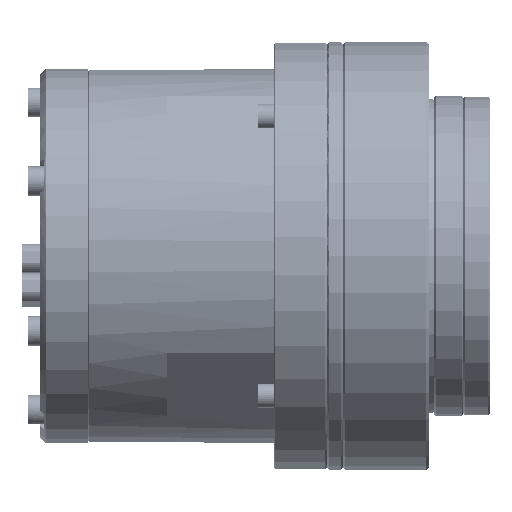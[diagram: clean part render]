
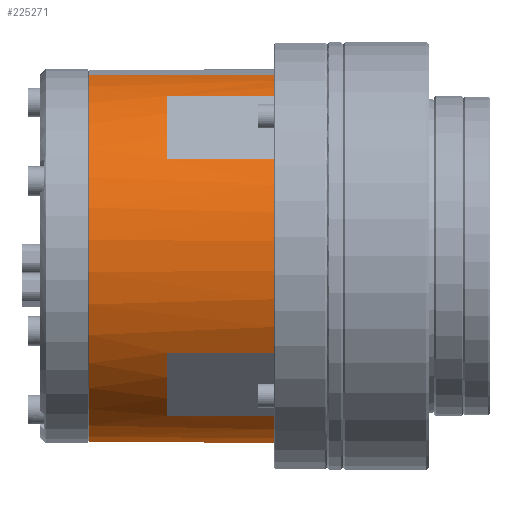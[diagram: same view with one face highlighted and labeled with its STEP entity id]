
A CAD part, front view. The second image highlights one B-rep face of the part: STEP entity #225271.
In plain terms, the highlighted cylindrical face has radius 35 mm (diameter 70 mm), a partial arc.
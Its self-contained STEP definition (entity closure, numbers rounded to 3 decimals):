
#745 = LINE ( 'NONE', #92793, #160733 ) ;
#1919 = CARTESIAN_POINT ( 'NONE',  ( -49., -29.915, -18.168 ) ) ;
#4684 = DIRECTION ( 'NONE',  ( 1., 0., 0. ) ) ;
#7961 = EDGE_CURVE ( 'NONE', #388718, #17046, #163701, .T. ) ;
#8034 = AXIS2_PLACEMENT_3D ( 'NONE', #76215, #78187, #198306 ) ;
#9413 = EDGE_CURVE ( 'NONE', #19463, #389064, #389815, .T. ) ;
#10441 = VERTEX_POINT ( 'NONE', #216048 ) ;
#12036 = ORIENTED_EDGE ( 'NONE', *, *, #255755, .F. ) ;
#13401 = LINE ( 'NONE', #107424, #105931 ) ;
#17046 = VERTEX_POINT ( 'NONE', #160191 ) ;
#19152 = CARTESIAN_POINT ( 'NONE',  ( -63.5, 0., 0. ) ) ;
#19463 = VERTEX_POINT ( 'NONE', #164385 ) ;
#20334 = CIRCLE ( 'NONE', #391242, 35. ) ;
#23893 = LINE ( 'NONE', #206046, #26163 ) ;
#26163 = VECTOR ( 'NONE', #61820, 1000. ) ;
#34960 = CIRCLE ( 'NONE', #258685, 35. ) ;
#38066 = EDGE_LOOP ( 'NONE', ( #87904, #295258, #357998, #218449, #228790, #245941, #252661, #12036, #369281, #177261, #128901, #138926 ) ) ;
#42257 = DIRECTION ( 'NONE',  ( -1., 0., 0. ) ) ;
#44217 = CYLINDRICAL_SURFACE ( 'NONE', #8034, 35. ) ;
#47086 = CARTESIAN_POINT ( 'NONE',  ( -19., -18.168, 29.915 ) ) ;
#50597 = CARTESIAN_POINT ( 'NONE',  ( -29., 0., 0. ) ) ;
#54548 = CARTESIAN_POINT ( 'NONE',  ( -49., 0., 0. ) ) ;
#59107 = AXIS2_PLACEMENT_3D ( 'NONE', #256673, #378738, #180397 ) ;
#61820 = DIRECTION ( 'NONE',  ( -1., 0., 0. ) ) ;
#70313 = CARTESIAN_POINT ( 'NONE',  ( -49., 0., 0. ) ) ;
#76215 = CARTESIAN_POINT ( 'NONE',  ( -19., 0., 0. ) ) ;
#78187 = DIRECTION ( 'NONE',  ( -1., 0., 0. ) ) ;
#84520 = CIRCLE ( 'NONE', #59107, 35. ) ;
#86559 = DIRECTION ( 'NONE',  ( -1., 0., 0. ) ) ;
#87904 = ORIENTED_EDGE ( 'NONE', *, *, #192999, .F. ) ;
#92793 = CARTESIAN_POINT ( 'NONE',  ( -19., -18.168, -29.915 ) ) ;
#96084 = DIRECTION ( 'NONE',  ( 0., -0.259, 0.966 ) ) ;
#97016 = EDGE_CURVE ( 'NONE', #234664, #217588, #84520, .T. ) ;
#105931 = VECTOR ( 'NONE', #199468, 1000. ) ;
#106695 = AXIS2_PLACEMENT_3D ( 'NONE', #194055, #280243, #96084 ) ;
#107424 = CARTESIAN_POINT ( 'NONE',  ( -19., -29.915, 18.168 ) ) ;
#110674 = DIRECTION ( 'NONE',  ( 1., 0., 0. ) ) ;
#113084 = LINE ( 'NONE', #47086, #215386 ) ;
#115460 = EDGE_CURVE ( 'NONE', #259163, #223110, #253619, .T. ) ;
#116608 = VECTOR ( 'NONE', #357865, 1000. ) ;
#128901 = ORIENTED_EDGE ( 'NONE', *, *, #9413, .T. ) ;
#136896 = CARTESIAN_POINT ( 'NONE',  ( -49., -18.168, 29.915 ) ) ;
#138926 = ORIENTED_EDGE ( 'NONE', *, *, #290094, .F. ) ;
#148144 = CARTESIAN_POINT ( 'NONE',  ( -29., 9.059, -33.807 ) ) ;
#155591 = EDGE_CURVE ( 'NONE', #19463, #259163, #13401, .T. ) ;
#160191 = CARTESIAN_POINT ( 'NONE',  ( -63.5, -9.059, 33.807 ) ) ;
#160733 = VECTOR ( 'NONE', #4684, 1000. ) ;
#161930 = DIRECTION ( 'NONE',  ( 0., 0.259, -0.966 ) ) ;
#163701 = LINE ( 'NONE', #263657, #191510 ) ;
#164385 = CARTESIAN_POINT ( 'NONE',  ( -49., -29.915, 18.168 ) ) ;
#167945 = VERTEX_POINT ( 'NONE', #268603 ) ;
#177261 = ORIENTED_EDGE ( 'NONE', *, *, #155591, .F. ) ;
#180397 = DIRECTION ( 'NONE',  ( 0., -0.259, 0.966 ) ) ;
#191510 = VECTOR ( 'NONE', #227688, 1000. ) ;
#192999 = EDGE_CURVE ( 'NONE', #388718, #167945, #20334, .T. ) ;
#193845 = EDGE_CURVE ( 'NONE', #17046, #10441, #250386, .T. ) ;
#194055 = CARTESIAN_POINT ( 'NONE',  ( -29., 0., 0. ) ) ;
#198306 = DIRECTION ( 'NONE',  ( 0., 0.259, -0.966 ) ) ;
#199322 = DIRECTION ( 'NONE',  ( 1., 0., 0. ) ) ;
#199468 = DIRECTION ( 'NONE',  ( 1., 0., 0. ) ) ;
#206046 = CARTESIAN_POINT ( 'NONE',  ( -19., -29.915, -18.168 ) ) ;
#215386 = VECTOR ( 'NONE', #233183, 1000. ) ;
#216048 = CARTESIAN_POINT ( 'NONE',  ( -63.5, 9.059, -33.807 ) ) ;
#217588 = VERTEX_POINT ( 'NONE', #148144 ) ;
#218449 = ORIENTED_EDGE ( 'NONE', *, *, #226057, .F. ) ;
#223110 = VERTEX_POINT ( 'NONE', #316296 ) ;
#225271 = ADVANCED_FACE ( 'NONE', ( #318465 ), #44217, .T. ) ;
#226057 = EDGE_CURVE ( 'NONE', #217588, #10441, #329824, .T. ) ;
#227688 = DIRECTION ( 'NONE',  ( -1., 0., 0. ) ) ;
#228790 = ORIENTED_EDGE ( 'NONE', *, *, #97016, .F. ) ;
#232757 = DIRECTION ( 'NONE',  ( 0., -0.259, 0.966 ) ) ;
#233183 = DIRECTION ( 'NONE',  ( -1., 0., 0. ) ) ;
#234664 = VERTEX_POINT ( 'NONE', #282263 ) ;
#235757 = CARTESIAN_POINT ( 'NONE',  ( -19., 9.059, -33.807 ) ) ;
#245941 = ORIENTED_EDGE ( 'NONE', *, *, #362641, .F. ) ;
#247934 = VERTEX_POINT ( 'NONE', #341417 ) ;
#250386 = CIRCLE ( 'NONE', #301551, 35. ) ;
#252661 = ORIENTED_EDGE ( 'NONE', *, *, #372775, .T. ) ;
#253619 = CIRCLE ( 'NONE', #106695, 35. ) ;
#255755 = EDGE_CURVE ( 'NONE', #223110, #293297, #23893, .T. ) ;
#256673 = CARTESIAN_POINT ( 'NONE',  ( -29., 0., 0. ) ) ;
#258685 = AXIS2_PLACEMENT_3D ( 'NONE', #70313, #42257, #376532 ) ;
#259163 = VERTEX_POINT ( 'NONE', #313638 ) ;
#263657 = CARTESIAN_POINT ( 'NONE',  ( -19., -9.059, 33.807 ) ) ;
#268603 = CARTESIAN_POINT ( 'NONE',  ( -29., -18.168, 29.915 ) ) ;
#278009 = CARTESIAN_POINT ( 'NONE',  ( -29., -9.059, 33.807 ) ) ;
#280243 = DIRECTION ( 'NONE',  ( 1., 0., 0. ) ) ;
#282263 = CARTESIAN_POINT ( 'NONE',  ( -29., -18.168, -29.915 ) ) ;
#287529 = AXIS2_PLACEMENT_3D ( 'NONE', #54548, #86559, #356823 ) ;
#290094 = EDGE_CURVE ( 'NONE', #167945, #389064, #113084, .T. ) ;
#293297 = VERTEX_POINT ( 'NONE', #1919 ) ;
#295258 = ORIENTED_EDGE ( 'NONE', *, *, #7961, .T. ) ;
#301551 = AXIS2_PLACEMENT_3D ( 'NONE', #19152, #199322, #161930 ) ;
#313638 = CARTESIAN_POINT ( 'NONE',  ( -29., -29.915, 18.168 ) ) ;
#316296 = CARTESIAN_POINT ( 'NONE',  ( -29., -29.915, -18.168 ) ) ;
#318465 = FACE_OUTER_BOUND ( 'NONE', #38066, .T. ) ;
#329824 = LINE ( 'NONE', #235757, #116608 ) ;
#341417 = CARTESIAN_POINT ( 'NONE',  ( -49., -18.168, -29.915 ) ) ;
#356823 = DIRECTION ( 'NONE',  ( 0., 0.259, -0.966 ) ) ;
#357865 = DIRECTION ( 'NONE',  ( -1., 0., 0. ) ) ;
#357998 = ORIENTED_EDGE ( 'NONE', *, *, #193845, .T. ) ;
#362641 = EDGE_CURVE ( 'NONE', #247934, #234664, #745, .T. ) ;
#369281 = ORIENTED_EDGE ( 'NONE', *, *, #115460, .F. ) ;
#372775 = EDGE_CURVE ( 'NONE', #247934, #293297, #34960, .T. ) ;
#376532 = DIRECTION ( 'NONE',  ( 0., 0.259, -0.966 ) ) ;
#378738 = DIRECTION ( 'NONE',  ( 1., 0., 0. ) ) ;
#388718 = VERTEX_POINT ( 'NONE', #278009 ) ;
#389064 = VERTEX_POINT ( 'NONE', #136896 ) ;
#389815 = CIRCLE ( 'NONE', #287529, 35. ) ;
#391242 = AXIS2_PLACEMENT_3D ( 'NONE', #50597, #110674, #232757 ) ;
